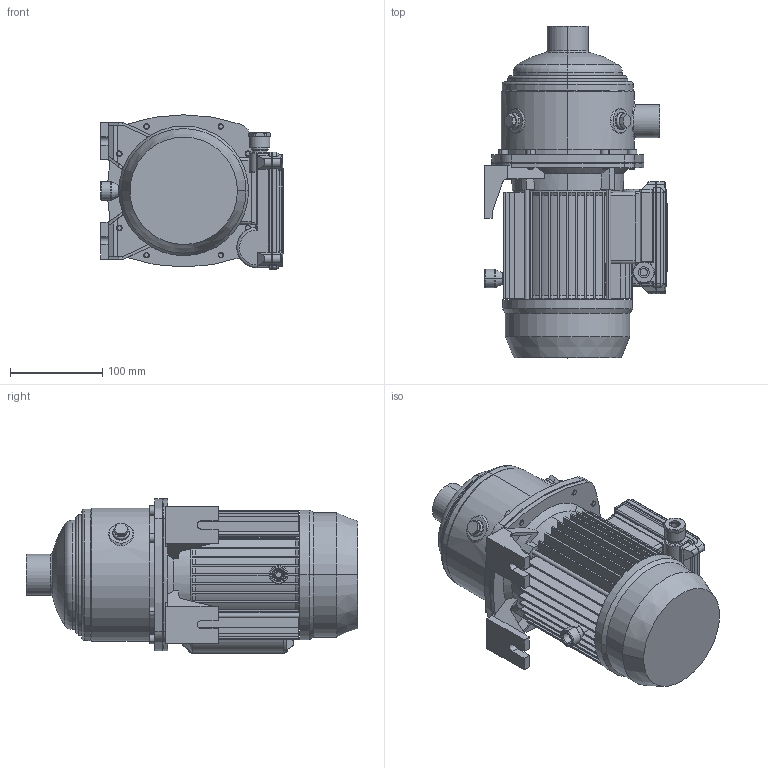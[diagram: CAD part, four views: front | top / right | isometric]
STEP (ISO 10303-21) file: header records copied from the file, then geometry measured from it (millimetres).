
FILE_DESCRIPTION((''),'2;1');
FILE_NAME('MATRIX_5-2T_0_45_M_ASM','2015-03-09T',('rosa'),('"Ebara Pumps Europe +39.444.706811"'),'PRO/ENGINEER BY PARAMETRIC TECHNOLOGY CORPORATION, 2012130','PRO/ENGINEER BY PARAMETRIC TECHNOLOGY CORPORATION, 2012130','');
FILE_SCHEMA(('AUTOMOTIVE_DESIGN { 1 0 10303 214 1 1 1 1 }'));
Length unit declared in the file: millimetre
Products named in the file (6): CORPO_POMPA_MATRIX_5-2_3; SUPPORTO_MATRIX_MEC_71; MEC_71_PACCO_90_MONOFASE; 72228; COPRIMORS_MEC63-71_MONOFASE_M4; MATRIX_5-2T_0_45_M_ASM
Assembly tree (5 placements, depth 2):
  MATRIX_5-2T_0_45_M_ASM
    CORPO_POMPA_MATRIX_5-2_3
    SUPPORTO_MATRIX_MEC_71
    MEC_71_PACCO_90_MONOFASE
    72228
    COPRIMORS_MEC63-71_MONOFASE_M4
Bounding box: 198 x 359.8 x 167.5 mm (x, y, z)
Volume: 3969409.5 mm3; surface area: 501769.9 mm2
Topology: 5 solids, 5 shells, 893 faces, 2159 edges, 1329 vertices
Faces by surface type: plane 435, cylinder 275, cone 124, torus 30, bspline 19, sphere 10
Entity records: 35143 total; most frequent: CARTESIAN_POINT 6916, DIRECTION 4484, ORIENTED_EDGE 4318, EDGE_CURVE 2159, PRESENTATION_STYLE_ASSIGNMENT 2113, STYLED_ITEM 2113, CURVE_STYLE 2109, AXIS2_PLACEMENT_3D 1691
